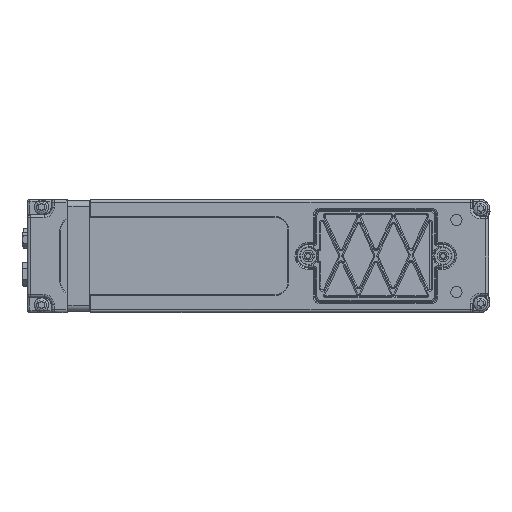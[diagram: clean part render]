
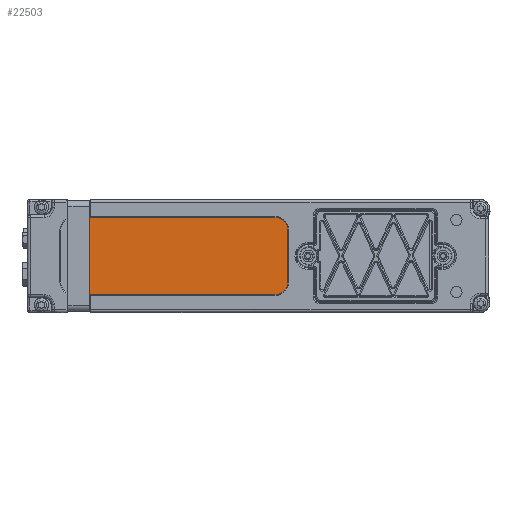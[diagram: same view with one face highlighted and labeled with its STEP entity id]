
A CAD part, front view. The second image highlights one B-rep face of the part: STEP entity #22503.
In plain terms, the highlighted planar face has unit normal (0, -1, 0).
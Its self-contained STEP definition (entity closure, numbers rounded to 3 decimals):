
#17704=ELLIPSE('',#72815,0.3,0.3);
#17705=ELLIPSE('',#72816,0.3,0.3);
#19631=FACE_OUTER_BOUND('',#31659,.T.);
#22503=ADVANCED_FACE('',(#19631),#25045,.F.);
#25045=PLANE('',#72817);
#28445=CIRCLE('',#72809,5.);
#28447=CIRCLE('',#72812,5.);
#31659=EDGE_LOOP('',(#38964,#38965,#38966,#38967,#38968,#38969,#38970,#38971));
#38964=ORIENTED_EDGE('',*,*,#58510,.F.);
#38965=ORIENTED_EDGE('',*,*,#58511,.T.);
#38966=ORIENTED_EDGE('',*,*,#58512,.T.);
#38967=ORIENTED_EDGE('',*,*,#58513,.T.);
#38968=ORIENTED_EDGE('',*,*,#58514,.T.);
#38969=ORIENTED_EDGE('',*,*,#58503,.T.);
#38970=ORIENTED_EDGE('',*,*,#58515,.F.);
#38971=ORIENTED_EDGE('',*,*,#58507,.T.);
#52473=VERTEX_POINT('',#101999);
#52475=VERTEX_POINT('',#102003);
#52477=VERTEX_POINT('',#102008);
#52479=VERTEX_POINT('',#102012);
#52481=VERTEX_POINT('',#102018);
#52482=VERTEX_POINT('',#102022);
#52483=VERTEX_POINT('',#102024);
#52484=VERTEX_POINT('',#102026);
#58503=EDGE_CURVE('',#52473,#52475,#28445,.T.);
#58507=EDGE_CURVE('',#52477,#52479,#28447,.T.);
#58510=EDGE_CURVE('',#52481,#52479,#64865,.T.);
#58511=EDGE_CURVE('',#52481,#52482,#17704,.T.);
#58512=EDGE_CURVE('',#52482,#52483,#64866,.T.);
#58513=EDGE_CURVE('',#52483,#52484,#17705,.T.);
#58514=EDGE_CURVE('',#52484,#52473,#64867,.T.);
#58515=EDGE_CURVE('',#52477,#52475,#64868,.T.);
#64865=LINE('',#102019,#68567);
#64866=LINE('',#102023,#68568);
#64867=LINE('',#102027,#68569);
#64868=LINE('',#102028,#68570);
#68567=VECTOR('',#82399,1.);
#68568=VECTOR('',#82404,1.);
#68569=VECTOR('',#82407,1.);
#68570=VECTOR('',#82408,1.);
#72809=AXIS2_PLACEMENT_3D('',#102004,#82385,#82386);
#72812=AXIS2_PLACEMENT_3D('',#102013,#82393,#82394);
#72815=AXIS2_PLACEMENT_3D('',#102021,#82402,#82403);
#72816=AXIS2_PLACEMENT_3D('',#102025,#82405,#82406);
#72817=AXIS2_PLACEMENT_3D('',#102029,#82409,#82410);
#82385=DIRECTION('',(0.,-1.,0.));
#82386=DIRECTION('',(-1.,0.,0.));
#82393=DIRECTION('',(0.,-1.,0.));
#82394=DIRECTION('',(-1.,0.,0.));
#82399=DIRECTION('',(1.,0.,0.));
#82402=DIRECTION('',(0.,1.,0.));
#82403=DIRECTION('',(0.,0.,1.));
#82404=DIRECTION('',(0.,0.,-1.));
#82405=DIRECTION('',(0.,1.,0.));
#82406=DIRECTION('',(0.,0.,1.));
#82407=DIRECTION('',(1.,0.,0.));
#82408=DIRECTION('',(0.,0.,-1.));
#82409=DIRECTION('',(0.,1.,0.));
#82410=DIRECTION('',(-1.,0.,0.));
#101999=CARTESIAN_POINT('',(-70.35,0.8,-1.001));
#102003=CARTESIAN_POINT('',(-65.35,0.8,4.));
#102004=CARTESIAN_POINT('',(-70.35,0.8,3.999));
#102008=CARTESIAN_POINT('',(-65.35,0.8,24.));
#102012=CARTESIAN_POINT('',(-70.35,0.8,28.999));
#102013=CARTESIAN_POINT('',(-70.35,0.8,23.999));
#102018=CARTESIAN_POINT('',(-141.8,0.8,28.999));
#102019=CARTESIAN_POINT('',(-153.35,0.8,28.999));
#102021=CARTESIAN_POINT('',(-141.8,0.8,29.299));
#102022=CARTESIAN_POINT('',(-142.1,0.8,29.299));
#102023=CARTESIAN_POINT('',(-142.1,0.8,28.999));
#102024=CARTESIAN_POINT('',(-142.1,0.8,-1.301));
#102025=CARTESIAN_POINT('',(-141.8,0.8,-1.301));
#102026=CARTESIAN_POINT('',(-141.8,0.8,-1.001));
#102027=CARTESIAN_POINT('',(-153.35,0.8,-1.001));
#102028=CARTESIAN_POINT('',(-65.35,0.8,29.));
#102029=CARTESIAN_POINT('',(-153.35,0.8,28.999));
